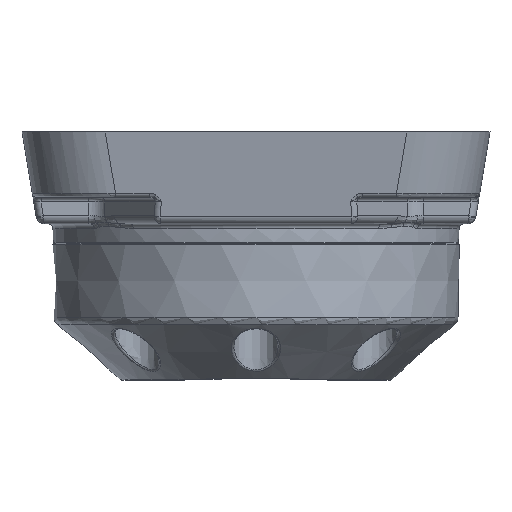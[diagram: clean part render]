
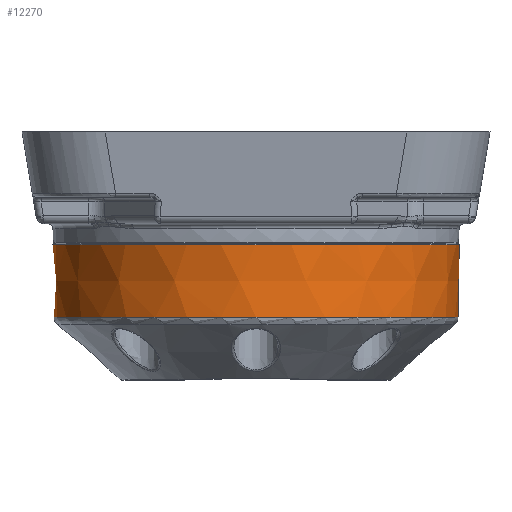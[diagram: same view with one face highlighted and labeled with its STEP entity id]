
A CAD part, front view. The second image highlights one B-rep face of the part: STEP entity #12270.
In plain terms, the highlighted conical face has half-angle 1 degrees and reference radius 83.7 mm.
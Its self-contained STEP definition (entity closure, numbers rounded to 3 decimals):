
#10074=CONICAL_SURFACE('',#29796,83.7,1.);
#12270=ADVANCED_FACE('',(#15653,#15654),#10074,.T.);
#15653=FACE_BOUND('',#16116,.T.);
#15654=FACE_BOUND('',#16117,.T.);
#16116=EDGE_LOOP('',(#17974));
#16117=EDGE_LOOP('',(#17975));
#17974=ORIENTED_EDGE('',*,*,#25689,.T.);
#17975=ORIENTED_EDGE('',*,*,#25690,.T.);
#23889=VERTEX_POINT('',#38956);
#23890=VERTEX_POINT('',#38958);
#25689=EDGE_CURVE('',#23889,#23889,#28431,.T.);
#25690=EDGE_CURVE('',#23890,#23890,#28432,.T.);
#28431=CIRCLE('',#29794,84.258);
#28432=CIRCLE('',#29795,83.731);
#29794=AXIS2_PLACEMENT_3D('',#38955,#32202,#32203);
#29795=AXIS2_PLACEMENT_3D('',#38957,#32204,#32205);
#29796=AXIS2_PLACEMENT_3D('',#38959,#32206,#32207);
#32202=DIRECTION('',(0.,0.,-1.));
#32203=DIRECTION('',(1.,0.,0.));
#32204=DIRECTION('',(0.,0.,1.));
#32205=DIRECTION('',(1.,0.,0.));
#32206=DIRECTION('',(0.,0.,1.));
#32207=DIRECTION('',(-1.,0.,0.));
#38955=CARTESIAN_POINT('',(435.734,1502.078,-58.51));
#38956=CARTESIAN_POINT('',(519.991,1502.078,-58.51));
#38957=CARTESIAN_POINT('',(435.734,1502.078,-88.675));
#38958=CARTESIAN_POINT('',(519.465,1502.078,-88.675));
#38959=CARTESIAN_POINT('',(435.734,1502.078,-90.452));
